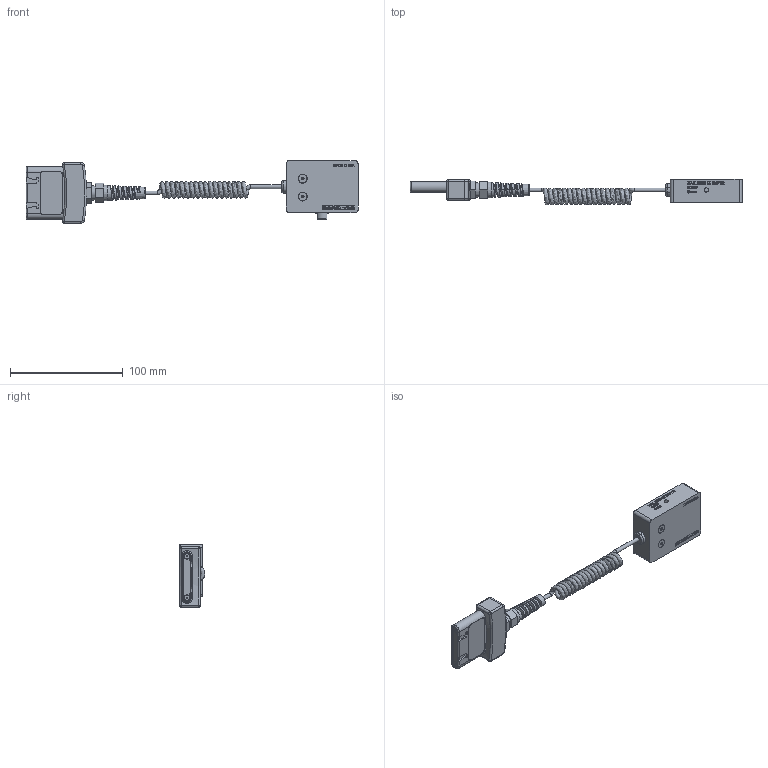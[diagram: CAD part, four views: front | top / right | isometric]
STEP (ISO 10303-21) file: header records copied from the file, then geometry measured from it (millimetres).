
FILE_DESCRIPTION(/* description */ (''),/* implementation_level */ '2;1');
FILE_NAME(/* name */ 'F:\CAD files\Itr\3D MARKETING MODELS\FORCE SENSORS\MR03\MR03.stp',/* time_stamp */ '2021-08-20T09:23:51-04:00',/* author */ ('mlampen'),/* organization */ (''),/* preprocessor_version */ 'ST-DEVELOPER v18.1',/* originating_system */ 'AutoCAD Mechanical',/* authorisation */ '');
FILE_SCHEMA (('AUTOMOTIVE_DESIGN { 1 0 10303 214 3 1 1 }'));
Length unit declared in the file: inch
Products named in the file (1): Product
Bounding box: 294.4 x 22.67 x 55.73 mm (x, y, z)
Volume: 103725 mm3; surface area: 33989.3 mm2
Topology: 1 solids, 11 shells, 2363 faces, 6419 edges, 4163 vertices
Faces by surface type: plane 1851, cylinder 210, cone 194, bspline 79, torus 25, sphere 4
Full cylindrical faces by diameter (mm): 2.184 x10, 2.946 x4, 3.175 x2, 3.429 x2, 3.81 x1, 5.842 x2, 6.35 x1, 7.62 x5, 11.125 x1, 11.176 x1, 12.7 x2
Entity records: 86491 total; most frequent: CARTESIAN_POINT 27880, ORIENTED_EDGE 12830, DIRECTION 11038, EDGE_CURVE 6415, LINE 5308, VECTOR 5308, VERTEX_POINT 4163, AXIS2_PLACEMENT_3D 2865
